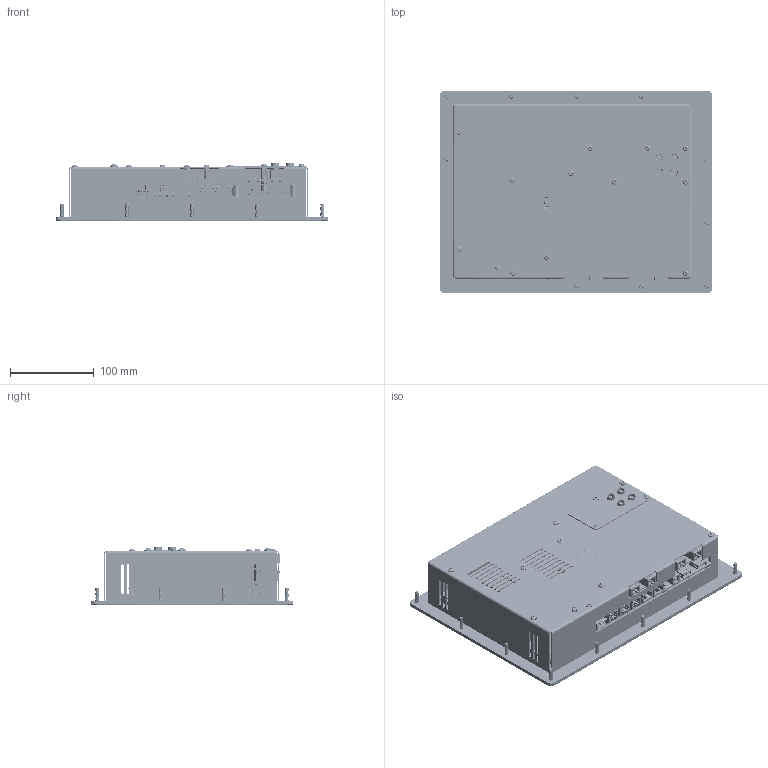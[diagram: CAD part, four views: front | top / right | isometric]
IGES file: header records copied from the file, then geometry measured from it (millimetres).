
Start section: C
Global section: file name: G310x2.igs; native system:  By UGS Corp.; preprocessor: XPlus GENERIC/IGES 3.0; author: Author; organization: Title; date: 20130917.111421; units: millimetre
Bounding box: 325.75 x 241.3 x 69.43 mm (x, y, z)
Surface area: 889703.6 mm2 (no closed solid volume)
Topology: 0 solids, 0 shells, 24530 faces, 143882 edges, 143806 vertices
Faces by surface type: bspline 24530
